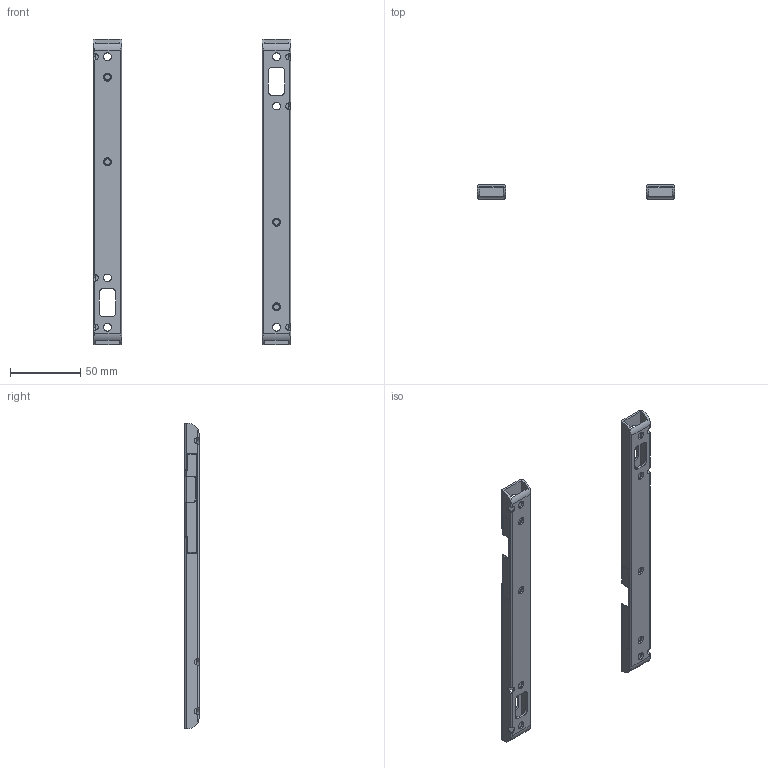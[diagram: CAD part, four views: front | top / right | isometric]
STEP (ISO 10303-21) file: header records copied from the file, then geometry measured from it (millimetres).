
FILE_DESCRIPTION (( 'STEP AP214' ), '1' );
FILE_NAME ('B-30740.Z543_D001413091-001.STEP', '2022-11-15T07:44:37', ( '' ), ( '' ), 'SwSTEP 2.0', 'SolidWorks 2021', '' );
FILE_SCHEMA (( 'AUTOMOTIVE_DESIGN' ));
Length unit declared in the file: millimetre
Products named in the file (6): D001338226-001; D001338244-001; D001338204-001; D001338258-001; B-30740.Z543_D001413091-001; D001338206-001
Assembly tree (10 placements, depth 3):
  B-30740.Z543_D001413091-001
    D001338244-001
      D001338206-001
      D001338204-001
      D001338226-001  x2
    D001338258-001
      D001338206-001
      D001338204-001
      D001338226-001  x2
Bounding box: 140 x 10 x 217 mm (x, y, z)
Volume: 38788 mm3; surface area: 46395.7 mm2
Topology: 8 solids, 8 shells, 470 faces, 1226 edges, 732 vertices
Faces by surface type: cylinder 202, plane 128, cone 68, torus 40, bspline 16, sphere 16
Entity records: 7181 total; most frequent: CARTESIAN_POINT 1699, DIRECTION 1133, ORIENTED_EDGE 1090, EDGE_CURVE 545, AXIS2_PLACEMENT_3D 431, VERTEX_POINT 333, LINE 271, VECTOR 271
